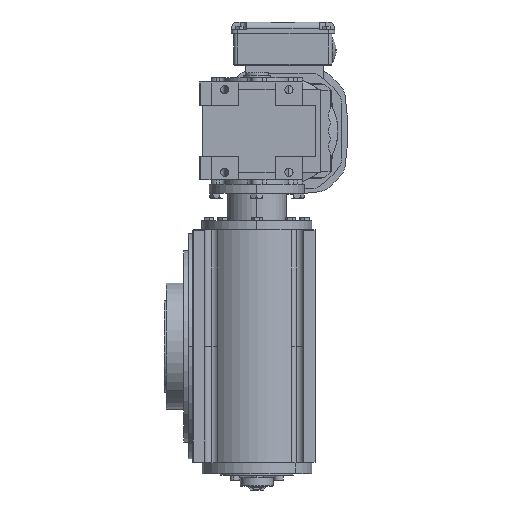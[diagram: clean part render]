
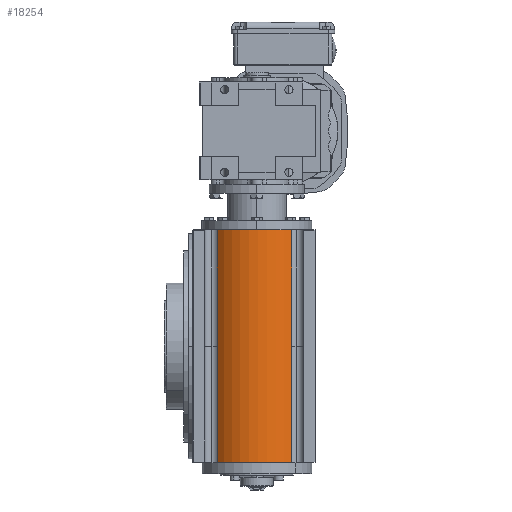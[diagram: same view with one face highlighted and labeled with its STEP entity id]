
A CAD part, left-side view. The second image highlights one B-rep face of the part: STEP entity #18254.
In plain terms, the highlighted cylindrical face has radius 60 mm (diameter 120 mm), a partial arc.
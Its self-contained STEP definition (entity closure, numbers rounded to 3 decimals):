
#664 = ORIENTED_EDGE ( 'NONE', *, *, #31900, .F. ) ;
#2108 = VECTOR ( 'NONE', #62379, 1000. ) ;
#3230 = VERTEX_POINT ( 'NONE', #20231 ) ;
#3586 = ORIENTED_EDGE ( 'NONE', *, *, #61649, .T. ) ;
#5330 = CYLINDRICAL_SURFACE ( 'NONE', #8547, 60. ) ;
#5606 = CARTESIAN_POINT ( 'NONE',  ( -126.602, 107.235, -121.981 ) ) ;
#5775 = VECTOR ( 'NONE', #18829, 1000. ) ;
#7138 = VERTEX_POINT ( 'NONE', #9331 ) ;
#8240 = ORIENTED_EDGE ( 'NONE', *, *, #9061, .T. ) ;
#8547 = AXIS2_PLACEMENT_3D ( 'NONE', #39227, #27312, #10742 ) ;
#9061 = EDGE_CURVE ( 'NONE', #7138, #19163, #27750, .T. ) ;
#9331 = CARTESIAN_POINT ( 'NONE',  ( -131.481, 26.059, 0. ) ) ;
#9452 = EDGE_CURVE ( 'NONE', #3230, #46864, #22177, .T. ) ;
#10742 = DIRECTION ( 'NONE',  ( 1., 0., 0. ) ) ;
#12172 = ORIENTED_EDGE ( 'NONE', *, *, #42617, .F. ) ;
#12913 = CARTESIAN_POINT ( 'NONE',  ( -126.602, 107.235, 127. ) ) ;
#14614 = CARTESIAN_POINT ( 'NONE',  ( -85., 64., -127. ) ) ;
#15843 = CARTESIAN_POINT ( 'NONE',  ( -131.481, 26.059, -121.981 ) ) ;
#16290 = VECTOR ( 'NONE', #29468, 1000. ) ;
#18254 = ADVANCED_FACE ( 'NONE', ( #40350 ), #5330, .T. ) ;
#18449 = LINE ( 'NONE', #30355, #5775 ) ;
#18829 = DIRECTION ( 'NONE',  ( 0., 0., -1. ) ) ;
#19163 = VERTEX_POINT ( 'NONE', #40640 ) ;
#20231 = CARTESIAN_POINT ( 'NONE',  ( -126.602, 107.235, 0. ) ) ;
#22177 = LINE ( 'NONE', #5606, #16290 ) ;
#22254 = DIRECTION ( 'NONE',  ( 0., 0., 1. ) ) ;
#22425 = AXIS2_PLACEMENT_3D ( 'NONE', #14614, #37675, #31535 ) ;
#22639 = DIRECTION ( 'NONE',  ( 1., 0., 0. ) ) ;
#23773 = CARTESIAN_POINT ( 'NONE',  ( -85., 64., 127. ) ) ;
#24527 = VERTEX_POINT ( 'NONE', #44101 ) ;
#27312 = DIRECTION ( 'NONE',  ( 0., 0., 1. ) ) ;
#27750 = LINE ( 'NONE', #15843, #2108 ) ;
#29468 = DIRECTION ( 'NONE',  ( 0., 0., -1. ) ) ;
#30355 = CARTESIAN_POINT ( 'NONE',  ( -126.602, 107.235, -121.981 ) ) ;
#31535 = DIRECTION ( 'NONE',  ( -1., 0., 0. ) ) ;
#31900 = EDGE_CURVE ( 'NONE', #38625, #19163, #50826, .T. ) ;
#32049 = VECTOR ( 'NONE', #65754, 1000. ) ;
#34000 = ORIENTED_EDGE ( 'NONE', *, *, #9452, .T. ) ;
#36488 = CARTESIAN_POINT ( 'NONE',  ( -131.481, 26.059, -121.981 ) ) ;
#37675 = DIRECTION ( 'NONE',  ( 0., 0., -1. ) ) ;
#38625 = VERTEX_POINT ( 'NONE', #12913 ) ;
#39227 = CARTESIAN_POINT ( 'NONE',  ( -85., 64., -121.981 ) ) ;
#40350 = FACE_OUTER_BOUND ( 'NONE', #46015, .T. ) ;
#40640 = CARTESIAN_POINT ( 'NONE',  ( -131.481, 26.059, 127. ) ) ;
#42617 = EDGE_CURVE ( 'NONE', #24527, #46864, #48242, .T. ) ;
#44101 = CARTESIAN_POINT ( 'NONE',  ( -131.481, 26.059, -127. ) ) ;
#46015 = EDGE_LOOP ( 'NONE', ( #3586, #8240, #664, #59563, #34000, #12172 ) ) ;
#46864 = VERTEX_POINT ( 'NONE', #50486 ) ;
#48242 = CIRCLE ( 'NONE', #22425, 60. ) ;
#50486 = CARTESIAN_POINT ( 'NONE',  ( -126.602, 107.235, -127. ) ) ;
#50826 = CIRCLE ( 'NONE', #72942, 60. ) ;
#58543 = EDGE_CURVE ( 'NONE', #38625, #3230, #18449, .T. ) ;
#59563 = ORIENTED_EDGE ( 'NONE', *, *, #58543, .T. ) ;
#61649 = EDGE_CURVE ( 'NONE', #24527, #7138, #71531, .T. ) ;
#62379 = DIRECTION ( 'NONE',  ( 0., 0., 1. ) ) ;
#65754 = DIRECTION ( 'NONE',  ( 0., 0., 1. ) ) ;
#71531 = LINE ( 'NONE', #36488, #32049 ) ;
#72942 = AXIS2_PLACEMENT_3D ( 'NONE', #23773, #22254, #22639 ) ;
